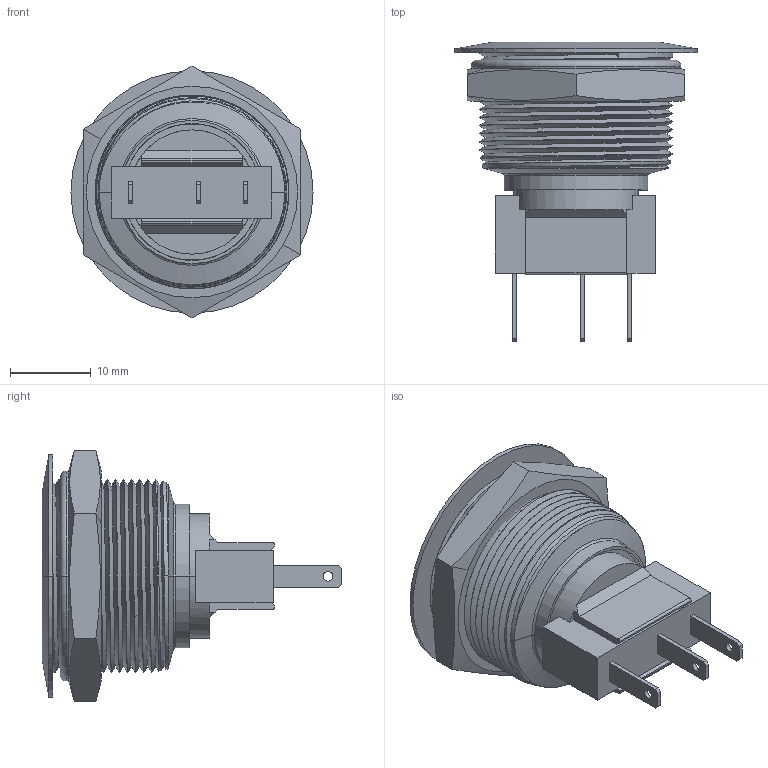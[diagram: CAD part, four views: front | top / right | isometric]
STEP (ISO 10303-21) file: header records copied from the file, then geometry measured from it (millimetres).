
FILE_DESCRIPTION((''),'2;1');
FILE_NAME('AV24LP404_SW0001','2009-09-07T',('jlgachon'),(''),'PRO/ENGINEER BY PARAMETRIC TECHNOLOGY CORPORATION, 2008400','PRO/ENGINEER BY PARAMETRIC TECHNOLOGY CORPORATION, 2008400','');
FILE_SCHEMA(('CONFIG_CONTROL_DESIGN'));
Length unit declared in the file: millimetre
Products named in the file (1): AV24LP404_SW0001
Bounding box: 30 x 37.1 x 31.18 mm (x, y, z)
Surface area: 5953.4 mm2 (no closed solid volume)
Topology: 0 solids, 7 shells, 130 faces, 371 edges, 253 vertices
Faces by surface type: plane 60, cylinder 40, cone 12, bspline 10, torus 8
Entity records: 10447 total; most frequent: CARTESIAN_POINT 7147, ORIENTED_EDGE 681, DIRECTION 610, EDGE_CURVE 371, VERTEX_POINT 253, AXIS2_PLACEMENT_3D 206, VECTOR 198, LINE 198
